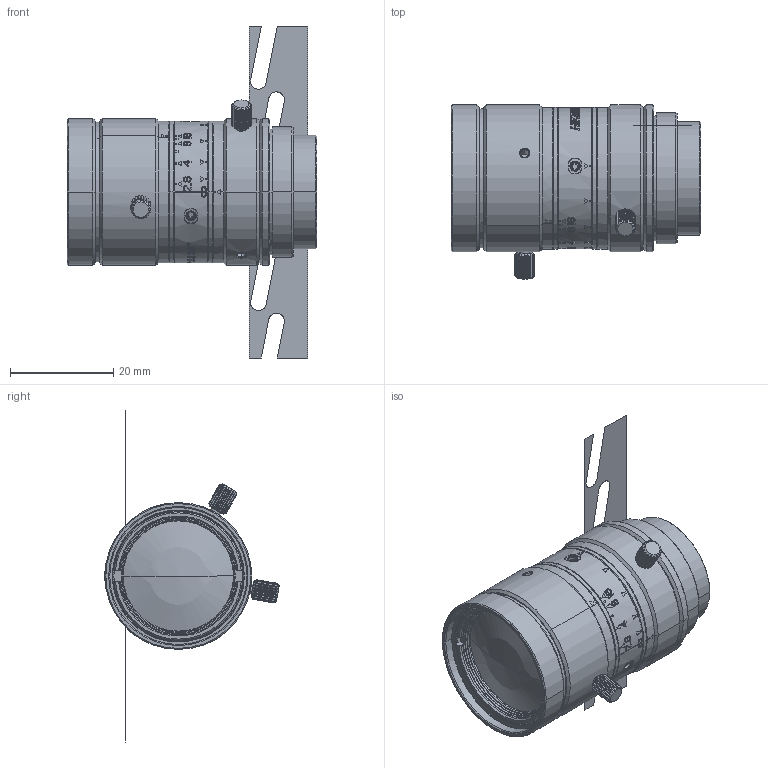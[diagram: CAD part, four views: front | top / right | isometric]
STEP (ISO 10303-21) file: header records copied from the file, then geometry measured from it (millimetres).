
FILE_DESCRIPTION((''),'2;1');
FILE_NAME('LS-MF1628M-8MP','2021-01-21T15:07:23',('LumaSpec Vision'),('LumaSpec Vision'),'CREO PARAMETRIC BY PTC INC, 2017260','CREO PARAMETRIC BY PTC INC, 2017260','');
FILE_SCHEMA(('CONFIG_CONTROL_DESIGN'));
Length unit declared in the file: millimetre
Products named in the file (1): LS-MF1628M-8MP
Bounding box: 48.47 x 33.81 x 64.4 mm (x, y, z)
Volume: 26057.5 mm3; surface area: 11761.7 mm2
Topology: 1 solids, 45 shells, 1483 faces, 4294 edges, 2912 vertices
Faces by surface type: plane 540, bspline 455, cylinder 335, cone 125, torus 12, extrusion 10, sphere 6
Entity records: 63087 total; most frequent: CARTESIAN_POINT 26974, ORIENTED_EDGE 8327, DIRECTION 6115, EDGE_CURVE 4286, VERTEX_POINT 2912, AXIS2_PLACEMENT_3D 2198, VECTOR 1719, LINE 1709
